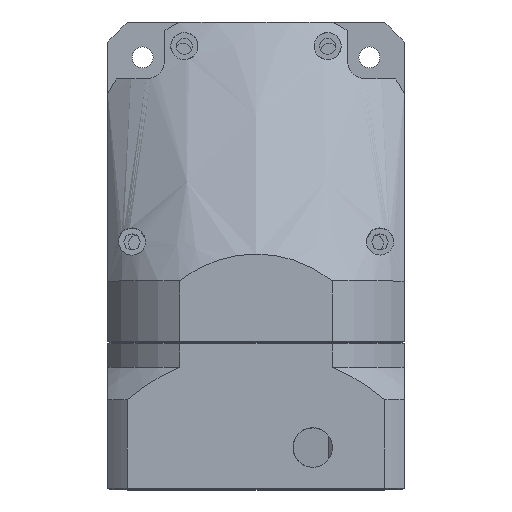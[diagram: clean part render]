
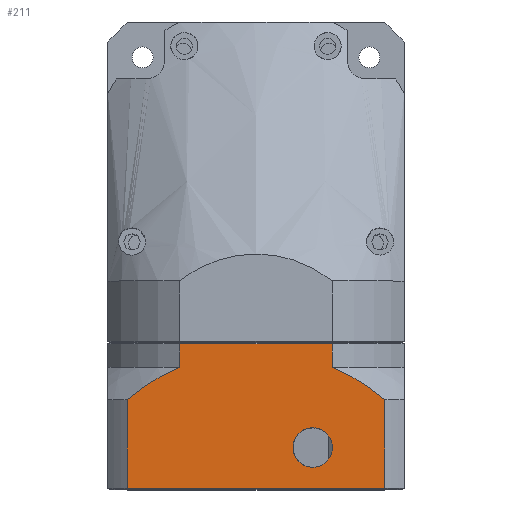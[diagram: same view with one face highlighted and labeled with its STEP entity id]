
A CAD part, top view. The second image highlights one B-rep face of the part: STEP entity #211.
In plain terms, the highlighted planar face has unit normal (0, 0, 1).
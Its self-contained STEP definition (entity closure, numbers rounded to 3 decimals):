
#32 = ORIENTED_EDGE ( 'NONE', *, *, #12680, .T. ) ;
#34 = ORIENTED_EDGE ( 'NONE', *, *, #7405, .F. ) ;
#211 = ADVANCED_FACE ( 'NONE', ( #639, #6879 ), #1404, .T. ) ;
#639 = FACE_BOUND ( 'NONE', #10347, .T. ) ;
#660 = EDGE_CURVE ( 'NONE', #12910, #6895, #14459, .T. ) ;
#692 = ORIENTED_EDGE ( 'NONE', *, *, #7002, .T. ) ;
#1126 = CARTESIAN_POINT ( 'NONE',  ( 59., 52.156, 60. ) ) ;
#1283 = DIRECTION ( 'NONE',  ( 1., 0., 0. ) ) ;
#1359 = CARTESIAN_POINT ( 'NONE',  ( 0., -52.156, 60. ) ) ;
#1404 = PLANE ( 'NONE',  #9369 ) ;
#1594 = CIRCLE ( 'NONE', #11367, 8. ) ;
#1603 = VERTEX_POINT ( 'NONE', #6201 ) ;
#1858 = CARTESIAN_POINT ( 'NONE',  ( 10., 30.923, 60. ) ) ;
#2115 = CARTESIAN_POINT ( 'NONE',  ( 50.5, 23., 60. ) ) ;
#2132 = DIRECTION ( 'NONE',  ( 1., 0., 0. ) ) ;
#2196 = VECTOR ( 'NONE', #11351, 1000. ) ;
#2201 = DIRECTION ( 'NONE',  ( 1., 0., 0. ) ) ;
#2204 = ORIENTED_EDGE ( 'NONE', *, *, #6396, .T. ) ;
#2722 = LINE ( 'NONE', #1126, #14365 ) ;
#2888 = CARTESIAN_POINT ( 'NONE',  ( 0., -30.923, 60. ) ) ;
#2963 = LINE ( 'NONE', #1359, #11663 ) ;
#3514 = CARTESIAN_POINT ( 'NONE',  ( 59., 52.156, 60. ) ) ;
#3734 = DIRECTION ( 'NONE',  ( 0., 0., 1. ) ) ;
#3818 = DIRECTION ( 'NONE',  ( 0., 0., 1. ) ) ;
#4288 = CARTESIAN_POINT ( 'NONE',  ( 23.121, -52.156, 60. ) ) ;
#4316 = CARTESIAN_POINT ( 'NONE',  ( 34.5, 23., 60. ) ) ;
#4758 = ORIENTED_EDGE ( 'NONE', *, *, #7915, .T. ) ;
#5099 = VECTOR ( 'NONE', #1283, 1000. ) ;
#5154 = DIRECTION ( 'NONE',  ( -1., 0., 0. ) ) ;
#5325 = ORIENTED_EDGE ( 'NONE', *, *, #6166, .T. ) ;
#5678 = ORIENTED_EDGE ( 'NONE', *, *, #660, .T. ) ;
#5801 = CARTESIAN_POINT ( 'NONE',  ( 0.5, -30.923, 60. ) ) ;
#6084 = LINE ( 'NONE', #2888, #5099 ) ;
#6166 = EDGE_CURVE ( 'NONE', #1603, #12824, #14503, .T. ) ;
#6178 = AXIS2_PLACEMENT_3D ( 'NONE', #11758, #10199, #8614 ) ;
#6201 = CARTESIAN_POINT ( 'NONE',  ( 10., -30.923, 60. ) ) ;
#6312 = EDGE_CURVE ( 'NONE', #9138, #15034, #8327, .T. ) ;
#6396 = EDGE_CURVE ( 'NONE', #12092, #12910, #2722, .T. ) ;
#6751 = CARTESIAN_POINT ( 'NONE',  ( 0., 30.923, 60. ) ) ;
#6856 = VECTOR ( 'NONE', #5154, 1000. ) ;
#6872 = CIRCLE ( 'NONE', #14198, 80. ) ;
#6879 = FACE_OUTER_BOUND ( 'NONE', #14568, .T. ) ;
#6882 = VECTOR ( 'NONE', #11496, 1000. ) ;
#6895 = VERTEX_POINT ( 'NONE', #14064 ) ;
#7002 = EDGE_CURVE ( 'NONE', #15034, #12351, #14605, .T. ) ;
#7058 = CIRCLE ( 'NONE', #9114, 8. ) ;
#7405 = EDGE_CURVE ( 'NONE', #8136, #8498, #1594, .T. ) ;
#7859 = DIRECTION ( 'NONE',  ( 1., 0., 0. ) ) ;
#7915 = EDGE_CURVE ( 'NONE', #6895, #9138, #6872, .T. ) ;
#8136 = VERTEX_POINT ( 'NONE', #4316 ) ;
#8327 = LINE ( 'NONE', #6751, #6856 ) ;
#8498 = VERTEX_POINT ( 'NONE', #2115 ) ;
#8614 = DIRECTION ( 'NONE',  ( 1., 0., 0. ) ) ;
#8809 = ORIENTED_EDGE ( 'NONE', *, *, #14312, .T. ) ;
#9114 = AXIS2_PLACEMENT_3D ( 'NONE', #11005, #9426, #7859 ) ;
#9138 = VERTEX_POINT ( 'NONE', #1858 ) ;
#9369 = AXIS2_PLACEMENT_3D ( 'NONE', #15267, #13724, #12155 ) ;
#9426 = DIRECTION ( 'NONE',  ( 0., 0., 1. ) ) ;
#9737 = EDGE_CURVE ( 'NONE', #8498, #8136, #7058, .T. ) ;
#10111 = CARTESIAN_POINT ( 'NONE',  ( 83.782, 0., 60. ) ) ;
#10189 = CARTESIAN_POINT ( 'NONE',  ( 42.5, 23., 60. ) ) ;
#10199 = DIRECTION ( 'NONE',  ( 0., 0., 1. ) ) ;
#10347 = EDGE_LOOP ( 'NONE', ( #10535, #34 ) ) ;
#10535 = ORIENTED_EDGE ( 'NONE', *, *, #9737, .F. ) ;
#11005 = CARTESIAN_POINT ( 'NONE',  ( 42.5, 23., 60. ) ) ;
#11351 = DIRECTION ( 'NONE',  ( -1., 0., 0. ) ) ;
#11367 = AXIS2_PLACEMENT_3D ( 'NONE', #10189, #3818, #2201 ) ;
#11496 = DIRECTION ( 'NONE',  ( 0., -1., 0. ) ) ;
#11663 = VECTOR ( 'NONE', #15230, 1000. ) ;
#11758 = CARTESIAN_POINT ( 'NONE',  ( 83.782, 0., 60. ) ) ;
#12085 = CARTESIAN_POINT ( 'NONE',  ( 0.5, 30.923, 60. ) ) ;
#12092 = VERTEX_POINT ( 'NONE', #15003 ) ;
#12155 = DIRECTION ( 'NONE',  ( 1., 0., 0. ) ) ;
#12351 = VERTEX_POINT ( 'NONE', #5801 ) ;
#12680 = EDGE_CURVE ( 'NONE', #12824, #12092, #2963, .T. ) ;
#12824 = VERTEX_POINT ( 'NONE', #4288 ) ;
#12895 = ORIENTED_EDGE ( 'NONE', *, *, #6312, .T. ) ;
#12907 = CARTESIAN_POINT ( 'NONE',  ( 0., 52.156, 60. ) ) ;
#12910 = VERTEX_POINT ( 'NONE', #3514 ) ;
#13048 = CARTESIAN_POINT ( 'NONE',  ( 0.5, -30.923, 60. ) ) ;
#13724 = DIRECTION ( 'NONE',  ( 0., 0., 1. ) ) ;
#14064 = CARTESIAN_POINT ( 'NONE',  ( 23.121, 52.156, 60. ) ) ;
#14198 = AXIS2_PLACEMENT_3D ( 'NONE', #10111, #3734, #2132 ) ;
#14312 = EDGE_CURVE ( 'NONE', #12351, #1603, #6084, .T. ) ;
#14365 = VECTOR ( 'NONE', #15013, 1000. ) ;
#14459 = LINE ( 'NONE', #12907, #2196 ) ;
#14503 = CIRCLE ( 'NONE', #6178, 80. ) ;
#14568 = EDGE_LOOP ( 'NONE', ( #32, #2204, #5678, #4758, #12895, #692, #8809, #5325 ) ) ;
#14605 = LINE ( 'NONE', #13048, #6882 ) ;
#15003 = CARTESIAN_POINT ( 'NONE',  ( 59., -52.156, 60. ) ) ;
#15013 = DIRECTION ( 'NONE',  ( 0., 1., 0. ) ) ;
#15034 = VERTEX_POINT ( 'NONE', #12085 ) ;
#15230 = DIRECTION ( 'NONE',  ( 1., 0., 0. ) ) ;
#15267 = CARTESIAN_POINT ( 'NONE',  ( 0., -60., 60. ) ) ;
